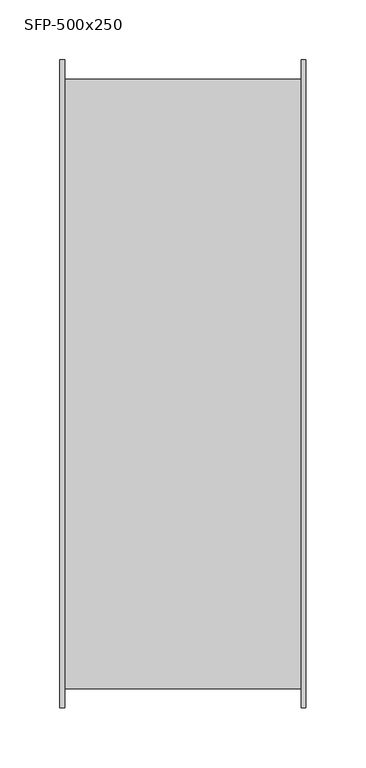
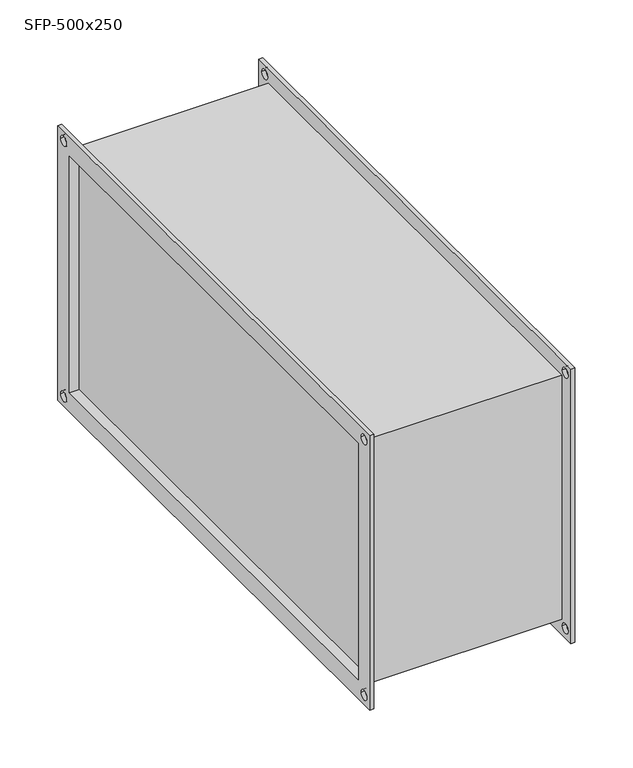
"""IFC4 building model written with IfcOpenShell, lengths in millimetres: damper geometry, СВ_ФильтрКассетный_КанальныйПрямоугольный_200-1000_SFP : SFP-500x250."""

from ifc_helpers import new_model, si_unit, frame, origin, place, context, project, spatial, polyline, circle_curve, outline, extrude, source, transform, mapped, element, save
from ifc_brep_helpers import plane_surface, revolved_surface, advanced_brep


def sfp_500x250_ae209877(model_context):
    return source(origin(), model_context, "Body", "SolidModel", [
        extrude(outline(polyline([(92.5, 250.0), (92.5, -250.0), (-92.5, -250.0), (-92.5, 250.0), (92.5, 250.0)])), frame((0.0, 0.0, -125.0), z_axis=(0.0, 0.0, 1.0), x_axis=(1.0, 0.0, 0.0)), (0.0, 0.0, 1.0), 250.0),
        advanced_brep(
        [(98.5, -254.0, 129.0), (-98.5, -254.0, 129.0), (-98.5, -254.0, -129.0), (98.5, -254.0, -129.0), (-98.5, 254.0, -129.0), (98.5, 254.0, -129.0), (-98.5, 254.0, 129.0), (98.5, 254.0, 129.0), (-102.5, -270.0, 145.0), (-102.5, 270.0, 145.0), (-102.5, 270.0, -145.0), (-102.5, -270.0, -145.0), (-102.5, -250.0, 125.0), (-102.5, -250.0, -125.0), (-102.5, 250.0, -125.0), (-102.5, 250.0, 125.0), (-102.5, 255.0, 135.0), (-102.5, 265.0, 135.0), (-102.5, -265.0, 135.0), (-102.5, -255.0, 135.0), (-102.5, -265.0, -135.0), (-102.5, -255.0, -135.0), (-102.5, 255.0, -135.0), (-102.5, 265.0, -135.0), (-98.5, -270.0, 145.0), (-98.5, -270.0, -145.0), (-98.5, 270.0, -145.0), (-98.5, 270.0, 145.0), (-98.5, 265.0, 135.0), (-98.5, 255.0, 135.0), (-98.5, -255.0, 135.0), (-98.5, -265.0, 135.0), (-98.5, -255.0, -135.0), (-98.5, -265.0, -135.0), (-98.5, 265.0, -135.0), (-98.5, 255.0, -135.0), (98.5, 270.0, 145.0), (98.5, 270.0, -145.0), (98.5, -270.0, -145.0), (98.5, -270.0, 145.0), (98.5, 255.0, 135.0), (98.5, 265.0, 135.0), (98.5, -265.0, 135.0), (98.5, -255.0, 135.0), (98.5, -265.0, -135.0), (98.5, -255.0, -135.0), (98.5, 255.0, -135.0), (98.5, 265.0, -135.0), (102.5, 270.0, 145.0), (102.5, -270.0, 145.0), (102.5, -270.0, -145.0), (102.5, 270.0, -145.0), (102.5, 250.0, 125.0), (102.5, 250.0, -125.0), (102.5, -250.0, -125.0), (102.5, -250.0, 125.0), (102.5, 265.0, 135.0), (102.5, 255.0, 135.0), (102.5, -255.0, 135.0), (102.5, -265.0, 135.0), (102.5, -255.0, -135.0), (102.5, -265.0, -135.0), (102.5, 265.0, -135.0), (102.5, 255.0, -135.0)],
        [
            (0, 1),
            (1, 2),
            (2, 3),
            (3, 0),
            (2, 4),
            (4, 5),
            (5, 3),
            (4, 6),
            (6, 7),
            (7, 5),
            (0, 7),
            (6, 1),
            (8, 9),
            (9, 10),
            (10, 11),
            (11, 8),
            (12, 13),
            (13, 14),
            (14, 15),
            (15, 12),
            (16, 17, circle_curve(frame((-102.5, 260.0, 135.0), z_axis=(1.0, 0.0, 0.0), x_axis=(0.0, 1.0, 0.0)), 5.0)),
            (17, 16, circle_curve(frame((-102.5, 260.0, 135.0), z_axis=(1.0, 0.0, 0.0), x_axis=(0.0, 1.0, 0.0)), 5.0)),
            (18, 19, circle_curve(frame((-102.5, -260.0, 135.0), z_axis=(1.0, 0.0, 0.0), x_axis=(0.0, 1.0, 0.0)), 5.0)),
            (19, 18, circle_curve(frame((-102.5, -260.0, 135.0), z_axis=(1.0, 0.0, 0.0), x_axis=(0.0, 1.0, 0.0)), 5.0)),
            (20, 21, circle_curve(frame((-102.5, -260.0, -135.0), z_axis=(1.0, 0.0, 0.0), x_axis=(0.0, 1.0, 0.0)), 5.0)),
            (21, 20, circle_curve(frame((-102.5, -260.0, -135.0), z_axis=(1.0, 0.0, 0.0), x_axis=(0.0, 1.0, 0.0)), 5.0)),
            (22, 23, circle_curve(frame((-102.5, 260.0, -135.0), z_axis=(1.0, 0.0, 0.0), x_axis=(0.0, 1.0, 0.0)), 5.0)),
            (23, 22, circle_curve(frame((-102.5, 260.0, -135.0), z_axis=(1.0, 0.0, 0.0), x_axis=(0.0, 1.0, 0.0)), 5.0)),
            (24, 25),
            (25, 26),
            (26, 27),
            (27, 24),
            (28, 29, circle_curve(frame((-98.5, 260.0, 135.0), z_axis=(-1.0, 0.0, 0.0), x_axis=(0.0, 1.0, 0.0)), 5.0)),
            (29, 28, circle_curve(frame((-98.5, 260.0, 135.0), z_axis=(-1.0, 0.0, 0.0), x_axis=(0.0, 1.0, 0.0)), 5.0)),
            (30, 31, circle_curve(frame((-98.5, -260.0, 135.0), z_axis=(-1.0, 0.0, 0.0), x_axis=(0.0, 1.0, 0.0)), 5.0)),
            (31, 30, circle_curve(frame((-98.5, -260.0, 135.0), z_axis=(-1.0, 0.0, 0.0), x_axis=(0.0, 1.0, 0.0)), 5.0)),
            (32, 33, circle_curve(frame((-98.5, -260.0, -135.0), z_axis=(-1.0, 0.0, 0.0), x_axis=(0.0, 1.0, 0.0)), 5.0)),
            (33, 32, circle_curve(frame((-98.5, -260.0, -135.0), z_axis=(-1.0, 0.0, 0.0), x_axis=(0.0, 1.0, 0.0)), 5.0)),
            (34, 35, circle_curve(frame((-98.5, 260.0, -135.0), z_axis=(-1.0, 0.0, 0.0), x_axis=(0.0, 1.0, 0.0)), 5.0)),
            (35, 34, circle_curve(frame((-98.5, 260.0, -135.0), z_axis=(-1.0, 0.0, 0.0), x_axis=(0.0, 1.0, 0.0)), 5.0)),
            (11, 25),
            (24, 8),
            (10, 26),
            (9, 27),
            (36, 37),
            (37, 38),
            (38, 39),
            (39, 36),
            (40, 41, circle_curve(frame((98.5, 260.0, 135.0), z_axis=(1.0, 0.0, 0.0), x_axis=(0.0, 1.0, 0.0)), 5.0)),
            (41, 40, circle_curve(frame((98.5, 260.0, 135.0), z_axis=(1.0, 0.0, 0.0), x_axis=(0.0, 1.0, 0.0)), 5.0)),
            (42, 43, circle_curve(frame((98.5, -260.0, 135.0), z_axis=(1.0, 0.0, 0.0), x_axis=(0.0, 1.0, 0.0)), 5.0)),
            (43, 42, circle_curve(frame((98.5, -260.0, 135.0), z_axis=(1.0, 0.0, 0.0), x_axis=(0.0, 1.0, 0.0)), 5.0)),
            (44, 45, circle_curve(frame((98.5, -260.0, -135.0), z_axis=(1.0, 0.0, 0.0), x_axis=(0.0, 1.0, 0.0)), 5.0)),
            (45, 44, circle_curve(frame((98.5, -260.0, -135.0), z_axis=(1.0, 0.0, 0.0), x_axis=(0.0, 1.0, 0.0)), 5.0)),
            (46, 47, circle_curve(frame((98.5, 260.0, -135.0), z_axis=(1.0, 0.0, 0.0), x_axis=(0.0, 1.0, 0.0)), 5.0)),
            (47, 46, circle_curve(frame((98.5, 260.0, -135.0), z_axis=(1.0, 0.0, 0.0), x_axis=(0.0, 1.0, 0.0)), 5.0)),
            (48, 49),
            (49, 50),
            (50, 51),
            (51, 48),
            (52, 53),
            (53, 54),
            (54, 55),
            (55, 52),
            (56, 57, circle_curve(frame((102.5, 260.0, 135.0), z_axis=(-1.0, 0.0, 0.0), x_axis=(0.0, 1.0, 0.0)), 5.0)),
            (57, 56, circle_curve(frame((102.5, 260.0, 135.0), z_axis=(-1.0, 0.0, 0.0), x_axis=(0.0, 1.0, 0.0)), 5.0)),
            (58, 59, circle_curve(frame((102.5, -260.0, 135.0), z_axis=(-1.0, 0.0, 0.0), x_axis=(0.0, 1.0, 0.0)), 5.0)),
            (59, 58, circle_curve(frame((102.5, -260.0, 135.0), z_axis=(-1.0, 0.0, 0.0), x_axis=(0.0, 1.0, 0.0)), 5.0)),
            (60, 61, circle_curve(frame((102.5, -260.0, -135.0), z_axis=(-1.0, 0.0, 0.0), x_axis=(0.0, 1.0, 0.0)), 5.0)),
            (61, 60, circle_curve(frame((102.5, -260.0, -135.0), z_axis=(-1.0, 0.0, 0.0), x_axis=(0.0, 1.0, 0.0)), 5.0)),
            (62, 63, circle_curve(frame((102.5, 260.0, -135.0), z_axis=(-1.0, 0.0, 0.0), x_axis=(0.0, 1.0, 0.0)), 5.0)),
            (63, 62, circle_curve(frame((102.5, 260.0, -135.0), z_axis=(-1.0, 0.0, 0.0), x_axis=(0.0, 1.0, 0.0)), 5.0)),
            (39, 49),
            (48, 36),
            (38, 50),
            (37, 51),
            (15, 52),
            (55, 12),
            (14, 53),
            (13, 54),
            (16, 29),
            (28, 17),
            (40, 57),
            (56, 41),
            (18, 31),
            (30, 19),
            (42, 59),
            (58, 43),
            (20, 33),
            (32, 21),
            (44, 61),
            (60, 45),
            (22, 35),
            (34, 23),
            (46, 63),
            (62, 47),
        ],
        [
            plane_surface(frame((98.5, -254.0, 129.0), z_axis=(0.0, -1.0, 0.0), x_axis=(-1.0, 0.0, 0.0))),
            plane_surface(frame((98.5, -254.0, -129.0), z_axis=(0.0, 0.0, -1.0), x_axis=(-1.0, 0.0, 0.0))),
            plane_surface(frame((98.5, 254.0, -129.0), z_axis=(0.0, 1.0, 0.0), x_axis=(-1.0, 0.0, 0.0))),
            plane_surface(frame((98.5, 254.0, 129.0), z_axis=(0.0, 0.0, 1.0), x_axis=(-1.0, 0.0, 0.0))),
            plane_surface(frame((-102.5, -270.0, 145.0), z_axis=(-1.0, 0.0, 0.0), x_axis=(0.0, 0.0, 1.0))),
            plane_surface(frame((-98.5, -270.0, 145.0), z_axis=(1.0, 0.0, 0.0), x_axis=(0.0, 0.0, -1.0))),
            plane_surface(frame((-98.5, -270.0, 145.0), z_axis=(0.0, -1.0, 0.0), x_axis=(-1.0, 0.0, 0.0))),
            plane_surface(frame((-98.5, -270.0, -145.0), z_axis=(0.0, 0.0, -1.0), x_axis=(-1.0, 0.0, 0.0))),
            plane_surface(frame((-98.5, 270.0, -145.0), z_axis=(0.0, 1.0, 0.0), x_axis=(-1.0, 0.0, 0.0))),
            plane_surface(frame((-98.5, 270.0, 145.0), z_axis=(0.0, 0.0, 1.0), x_axis=(-1.0, 0.0, 0.0))),
            plane_surface(frame((98.5, 250.0, -125.0), z_axis=(-1.0, 0.0, 0.0), x_axis=(0.0, 0.0, 1.0))),
            plane_surface(frame((102.5, 250.0, -125.0), z_axis=(1.0, 0.0, 0.0), x_axis=(0.0, 0.0, -1.0))),
            plane_surface(frame((102.5, 270.0, 145.0), z_axis=(0.0, 0.0, 1.0), x_axis=(-1.0, 0.0, 0.0))),
            plane_surface(frame((102.5, -270.0, 145.0), z_axis=(0.0, -1.0, 0.0), x_axis=(-1.0, 0.0, 0.0))),
            plane_surface(frame((102.5, -270.0, -145.0), z_axis=(0.0, 0.0, -1.0), x_axis=(-1.0, 0.0, 0.0))),
            plane_surface(frame((102.5, 270.0, -145.0), z_axis=(0.0, 1.0, 0.0), x_axis=(-1.0, 0.0, 0.0))),
            plane_surface(frame((-98.5, -250.0, 125.0), z_axis=(0.0, 0.0, -1.0), x_axis=(-1.0, 0.0, 0.0))),
            plane_surface(frame((-98.5, 250.0, 125.0), z_axis=(0.0, -1.0, 0.0), x_axis=(-1.0, 0.0, 0.0))),
            plane_surface(frame((-98.5, 250.0, -125.0), z_axis=(0.0, 0.0, 1.0), x_axis=(-1.0, 0.0, 0.0))),
            plane_surface(frame((-98.5, -250.0, -125.0), z_axis=(0.0, 1.0, 0.0), x_axis=(-1.0, 0.0, 0.0))),
            revolved_surface(polyline([(-98.5, 265.0, 135.0), (-102.5, 265.0, 135.0)]), (-102.5, 260.0, 135.0), (1.0, 0.0, 0.0)),
            revolved_surface(polyline([(102.5, 265.0, 135.0), (98.5, 265.0, 135.0)]), (-102.5, 260.0, 135.0), (1.0, 0.0, 0.0)),
            revolved_surface(polyline([(-98.5, -255.0, 135.0), (-102.5, -255.0, 135.0)]), (0.0, -260.0, 135.0), (1.0, 0.0, 0.0)),
            revolved_surface(polyline([(102.5, -255.0, 135.0), (98.5, -255.0, 135.0)]), (0.0, -260.0, 135.0), (1.0, 0.0, 0.0)),
            revolved_surface(polyline([(-98.5, -255.0, -135.0), (-102.5, -255.0, -135.0)]), (0.0, -260.0, -135.0), (1.0, 0.0, 0.0)),
            revolved_surface(polyline([(102.5, -255.0, -135.0), (98.5, -255.0, -135.0)]), (0.0, -260.0, -135.0), (1.0, 0.0, 0.0)),
            revolved_surface(polyline([(-98.5, 265.0, -135.0), (-102.5, 265.0, -135.0)]), (0.0, 260.0, -135.0), (1.0, 0.0, 0.0)),
            revolved_surface(polyline([(102.5, 265.0, -135.0), (98.5, 265.0, -135.0)]), (0.0, 260.0, -135.0), (1.0, 0.0, 0.0)),
        ],
        [
            (0, [[1, 2, 3, 4]]),
            (1, [[-3, 5, 6, 7]]),
            (2, [[-6, 8, 9, 10]]),
            (3, [[-1, 11, -9, 12]]),
            (4, [[13, 14, 15, 16], [17, 18, 19, 20], [21, 22], [23, 24], [25, 26], [27, 28]]),
            (5, [[29, 30, 31, 32], [-2, -12, -8, -5], [33, 34], [35, 36], [37, 38], [39, 40]]),
            (6, [[-16, 41, -29, 42]]),
            (7, [[-15, 43, -30, -41]]),
            (8, [[-14, 44, -31, -43]]),
            (9, [[-13, -42, -32, -44]]),
            (10, [[45, 46, 47, 48], [-4, -7, -10, -11], [49, 50], [51, 52], [53, 54], [55, 56]]),
            (11, [[57, 58, 59, 60], [61, 62, 63, 64], [65, 66], [67, 68], [69, 70], [71, 72]]),
            (12, [[-48, 73, -57, 74]]),
            (13, [[-47, 75, -58, -73]]),
            (14, [[-46, 76, -59, -75]]),
            (15, [[-45, -74, -60, -76]]),
            (16, [[-20, 77, -64, 78]]),
            (17, [[-77, -19, 79, -61]]),
            (18, [[-79, -18, 80, -62]]),
            (19, [[-80, -17, -78, -63]]),
            (20, [[81, -33, 82, -21]]),
            (21, [[83, -65, 84, -49]]),
            (20, [[-81, -22, -82, -34]]),
            (21, [[-83, -50, -84, -66]]),
            (22, [[85, -35, 86, -23]]),
            (23, [[87, -67, 88, -51]]),
            (22, [[-85, -24, -86, -36]]),
            (23, [[-87, -52, -88, -68]]),
            (24, [[89, -37, 90, -25]]),
            (25, [[91, -69, 92, -53]]),
            (24, [[-89, -26, -90, -38]]),
            (25, [[-91, -54, -92, -70]]),
            (26, [[93, -39, 94, -27]]),
            (27, [[95, -71, 96, -55]]),
            (26, [[-93, -28, -94, -40]]),
            (27, [[-95, -56, -96, -72]]),
        ],
    ),
    ])


if __name__ == "__main__":
    model = new_model("IFC4")
    model_context = context("Model", 3, world=origin())
    ifc_project = project(units=[si_unit("LENGTHUNIT", "METRE", prefix="MILLI")], contexts=[model_context])
    site = spatial("IfcSite", under=ifc_project)
    building = spatial("IfcBuilding", under=site)
    placement = place(None, origin())
    sfp_500x250_shape = sfp_500x250_ae209877(model_context)
    element("IfcDamper", 1, ObjectType="СВ_ФильтрКассетный_КанальныйПрямоугольный_200-1000_SFP : SFP-500x250", at=placement, inside=building, context=model_context, shape_type="MappedRepresentation", body=[
        mapped(sfp_500x250_shape, transform((0.0, 0.0, 0.0), x_axis=(1.0, 0.0, 0.0), y_axis=(0.0, 1.0, 0.0), z_axis=(0.0, 0.0, 1.0))),
    ])
    save(model, "model.ifc")
